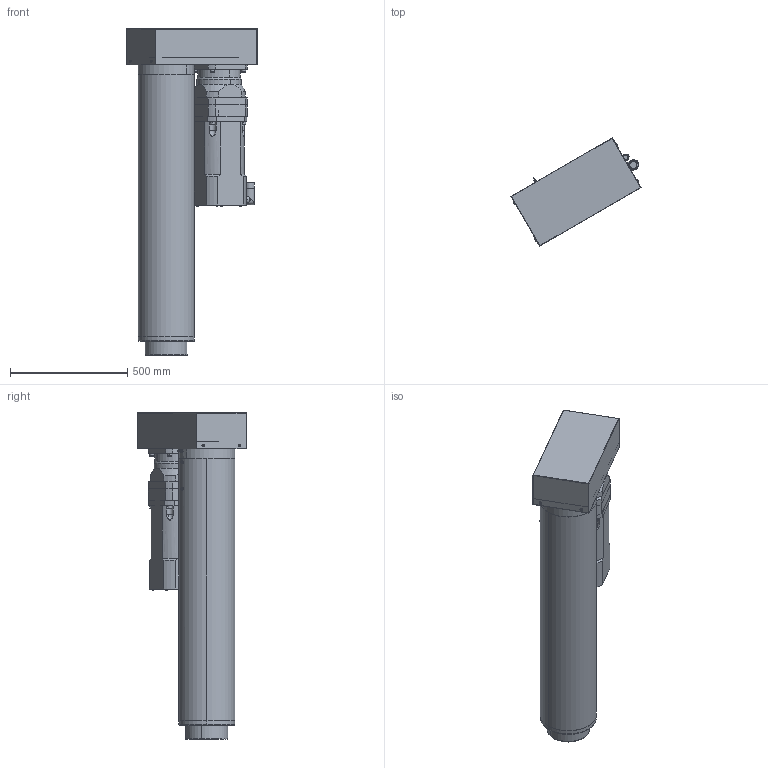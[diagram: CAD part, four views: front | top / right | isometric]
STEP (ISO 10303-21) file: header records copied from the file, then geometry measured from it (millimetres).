
FILE_DESCRIPTION (( 'STEP AP214' ), '1' );
FILE_NAME ('RLWPK200D-075-010HG0.STEP', '2023-04-06T06:39:09', ( '' ), ( '' ), 'SwSTEP 2.0', 'SolidWorks 2021', '' );
FILE_SCHEMA (( 'AUTOMOTIVE_DESIGN' ));
Length unit declared in the file: millimetre
Products named in the file (1): RLWPK200D-075-010HG0
Bounding box: 555.1 x 462.49 x 1392 mm (x, y, z)
Surface area: 4570747.7 mm2 (no closed solid volume)
Topology: 0 solids, 39 shells, 1389 faces, 3300 edges, 2006 vertices
Faces by surface type: cylinder 570, plane 527, cone 224, torus 58, bspline 10
Entity records: 56665 total; most frequent: CARTESIAN_POINT 8765, DIRECTION 7149, ORIENTED_EDGE 6304, EDGE_CURVE 3158, AXIS2_PLACEMENT_3D 2769, VERTEX_POINT 2006, EDGE_LOOP 1670, VECTOR 1611
